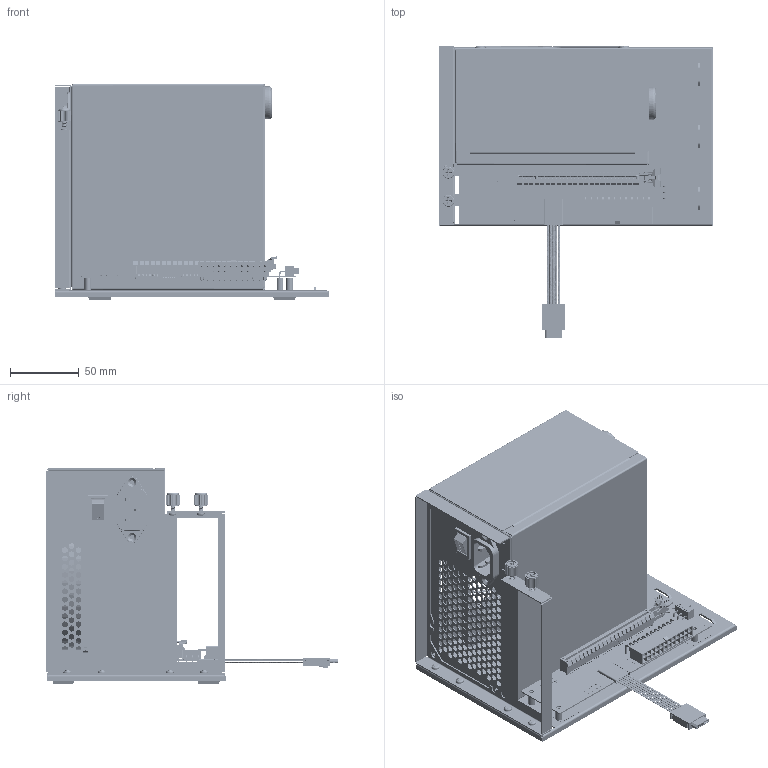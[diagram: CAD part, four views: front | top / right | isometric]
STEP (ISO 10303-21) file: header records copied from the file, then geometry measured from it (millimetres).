
FILE_DESCRIPTION(('Open CASCADE Model'),'2;1');
FILE_NAME('Open CASCADE Shape Model','2025-08-13T15:07:14',('Author'),( 'Open CASCADE'),'Open CASCADE STEP processor 7.5','Open CASCADE 7.5' ,'Unknown');
FILE_SCHEMA(('AUTOMOTIVE_DESIGN { 1 0 10303 214 1 1 1 1 }'));
Length unit declared in the file: millimetre
Products named in the file (183): PCB; Board; Open CASCADE STEP translator 7.5 6.1.1; C1; C0603_060; D1; LED AP1608; D2; D3; D4; R2; 0603_RES; Capsule; Encapsulation; TopCover; R3; R4; R8; R9; CN1; APCI0418-P010C_3D 2; R1; Q1; SOT-23; CN3; 039300240; C2; R11; R5; D7; User Library-SOD523F; D6; D5; R7; R6; R10; R12; Designator4_2; SFF-8611-1; Free-Models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
Assembly tree (329 placements, depth 4):
  PCB
    Board
      Open CASCADE STEP translator 7.5 6.1.1
    C1
      C0603_060
      C0603_060
      C0603_060
    D1
      LED AP1608
    D2
      LED AP1608
    D3
      LED AP1608
    D4
      LED AP1608
    R2
      0603_RES
        Capsule
        Encapsulation  x2
        TopCover
    R3
      0603_RES
        Capsule
        Encapsulation  x2
        TopCover
    R4
      0603_RES
        Capsule
        Encapsulation  x2
        TopCover
    R8
      0603_RES
        Capsule
        Encapsulation  x2
        TopCover
    R9
      0603_RES
        Capsule
        Encapsulation  x2
        TopCover
    CN1
      APCI0418-P010C_3D 2
    R1
      0603_RES
        Capsule
        Encapsulation  x2
        TopCover
    Q1
      SOT-23
    CN3
      039300240
    C2
      C0603_060
      C0603_060
      C0603_060
    R11
      0603_RES
        Capsule
        Encapsulation  x2
        TopCover
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Bounding box: 200.22 x 212.14 x 157.5 mm (x, y, z)
Volume: 589125.2 mm3; surface area: 860483 mm2
Topology: 350 solids, 519 shells, 23992 faces, 64981 edges, 42528 vertices
Faces by surface type: plane 13126, bspline 6143, cylinder 3553, revolution 1035, sphere 56, torus 39, cone 20, extrusion 20
Full cylindrical faces by diameter (mm): 0.2 x120, 0.254 x160, 0.6 x6, 0.63 x40, 0.762 x2, 0.9 x4, 1 x12, 1.2 x1, 1.5 x3, 1.8 x24, 3 x2, 3.4 x46, 3.5 x5, 3.6 x10, 4.6 x4, 5 x4, 5.6 x6, 6.6 x4, 8.6 x4
Entity records: 772492 total; most frequent: CARTESIAN_POINT 171819, ORIENTED_EDGE 97802, DIRECTION 71618, EDGE_CURVE 48931, VERTEX_POINT 32071, VECTOR 30384, LINE 30374, AXIS2_PLACEMENT_3D 20272
